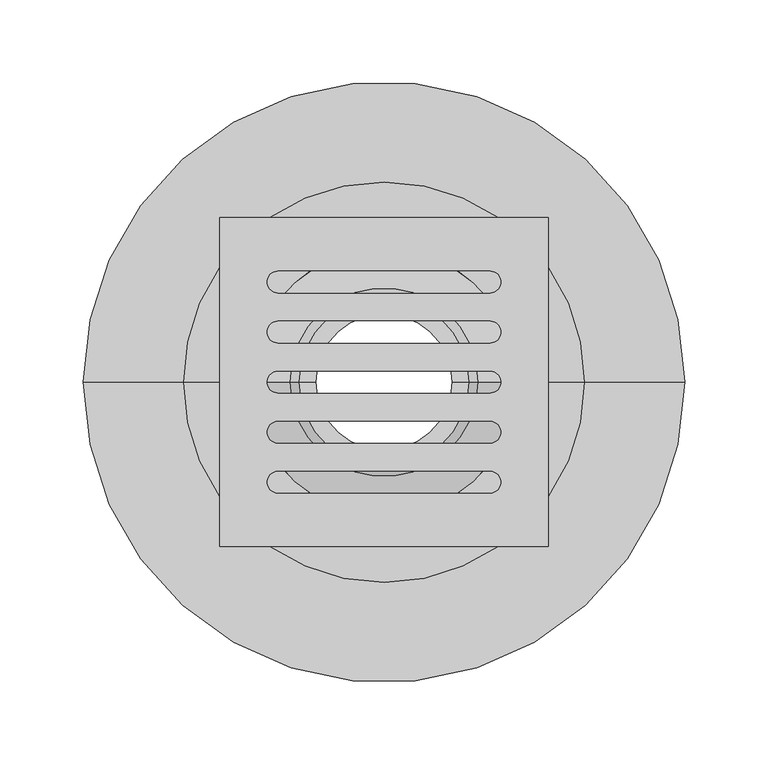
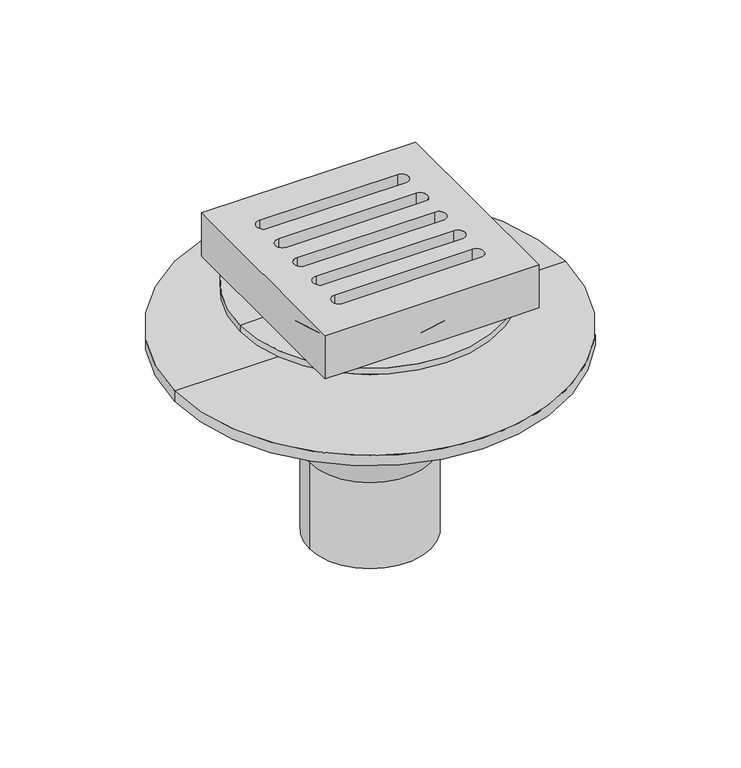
"""IFC4 building model written with IfcOpenShell, lengths in millimetres: sanitary terminal geometry, PF_ST_UN_305914_Siphon Fonte Telescopique Noir 200x200 vertical DN100_ACO : PF_ST_UN_305914_Siphon Fonte Telescopique Noir 200x200 vertical DN100_ACO."""

from ifc_helpers import new_model, si_unit, frame, origin, place, context, project, spatial, polyline, circle_curve, source, transform, mapped, element, save
from ifc_brep_helpers import plane_surface, cylinder_surface, revolved_surface, advanced_brep


def sanitary_terminal_da008950(model_context):
    return source(origin(), model_context, "Body", "AdvancedBrep", [
        advanced_brep(
        [(180.0, 0.0, -95.0), (-180.0, 0.0, -95.0), (-180.0, 0.0, -85.0), (180.0, 0.0, -85.0), (77.5, 0.0, -95.0), (-77.5, 0.0, -95.0), (77.5, 0.0, -110.0), (-77.5, 0.0, -110.0), (70.0, 0.0, -110.0), (-70.0, 0.0, -110.0), (70.0, 0.0, -167.0), (-70.0, 0.0, -167.0), (56.0, 0.0, -198.0), (-56.0, 0.0, -198.0), (56.0, 0.0, -282.0), (-56.0, 0.0, -282.0), (51.0, 0.0, -282.0), (-51.0, 0.0, -282.0), (51.0, 0.0, -212.3321421), (-51.0, 0.0, -212.3321421), (40.7468904, 0.0, -212.3321421), (-40.7468904, 0.0, -212.3321421), (40.7468904, 0.0, -197.3321421), (-40.7468904, 0.0, -197.3321421), (50.7468904, 0.0, -197.3321421), (-50.7468904, 0.0, -197.3321421), (62.5, 0.0, -167.0), (-62.5, 0.0, -167.0), (62.5, 0.0, -102.5), (-62.5, 0.0, -102.5), (70.0, 0.0, -102.5), (-70.0, 0.0, -102.5), (70.0, 0.0, -92.5), (-70.0, 0.0, -92.5), (62.5, 0.0, -92.5), (-62.5, 0.0, -92.5), (62.5, 0.0, -85.0), (-62.5, 0.0, -85.0)],
        [
            (0, 1, circle_curve(frame((0.0, 0.0, -95.0), z_axis=(0.0, 0.0, 1.0), x_axis=(-1.0, 0.0, 0.0)), 180.0)),
            (1, 2),
            (2, 3, circle_curve(frame((0.0, 0.0, -85.0), z_axis=(0.0, 0.0, -1.0), x_axis=(-1.0, 0.0, 0.0)), 180.0)),
            (3, 0),
            (1, 0, circle_curve(frame((0.0, 0.0, -95.0), z_axis=(0.0, 0.0, 1.0), x_axis=(-1.0, 0.0, 0.0)), 180.0)),
            (3, 2, circle_curve(frame((0.0, 0.0, -85.0), z_axis=(0.0, 0.0, -1.0), x_axis=(-1.0, 0.0, 0.0)), 180.0)),
            (4, 5, circle_curve(frame((0.0, 0.0, -95.0), z_axis=(0.0, 0.0, 1.0), x_axis=(-1.0, 0.0, 0.0)), 77.5)),
            (5, 1),
            (0, 4),
            (5, 4, circle_curve(frame((0.0, 0.0, -95.0), z_axis=(0.0, 0.0, 1.0), x_axis=(-1.0, 0.0, 0.0)), 77.5)),
            (6, 7, circle_curve(frame((0.0, 0.0, -110.0), z_axis=(0.0, 0.0, 1.0), x_axis=(-1.0, 0.0, 0.0)), 77.5)),
            (7, 5),
            (4, 6),
            (7, 6, circle_curve(frame((0.0, 0.0, -110.0), z_axis=(0.0, 0.0, 1.0), x_axis=(-1.0, 0.0, 0.0)), 77.5)),
            (8, 9, circle_curve(frame((0.0, 0.0, -110.0), z_axis=(0.0, 0.0, 1.0), x_axis=(-1.0, 0.0, 0.0)), 70.0)),
            (9, 7),
            (6, 8),
            (9, 8, circle_curve(frame((0.0, 0.0, -110.0), z_axis=(0.0, 0.0, 1.0), x_axis=(-1.0, 0.0, 0.0)), 70.0)),
            (10, 11, circle_curve(frame((0.0, 0.0, -167.0), z_axis=(0.0, 0.0, 1.0), x_axis=(-1.0, 0.0, 0.0)), 70.0)),
            (11, 9),
            (8, 10),
            (11, 10, circle_curve(frame((0.0, 0.0, -167.0), z_axis=(0.0, 0.0, 1.0), x_axis=(-1.0, 0.0, 0.0)), 70.0)),
            (12, 13, circle_curve(frame((0.0, 0.0, -198.0), z_axis=(0.0, 0.0, 1.0), x_axis=(-1.0, 0.0, 0.0)), 56.0)),
            (13, 11),
            (10, 12),
            (13, 12, circle_curve(frame((0.0, 0.0, -198.0), z_axis=(0.0, 0.0, 1.0), x_axis=(-1.0, 0.0, 0.0)), 56.0)),
            (14, 15, circle_curve(frame((0.0, 0.0, -282.0), z_axis=(0.0, 0.0, 1.0), x_axis=(-1.0, 0.0, 0.0)), 56.0)),
            (15, 13),
            (12, 14),
            (15, 14, circle_curve(frame((0.0, 0.0, -282.0), z_axis=(0.0, 0.0, 1.0), x_axis=(-1.0, 0.0, 0.0)), 56.0)),
            (16, 17, circle_curve(frame((0.0, 0.0, -282.0), z_axis=(0.0, 0.0, 1.0), x_axis=(-1.0, 0.0, 0.0)), 51.0)),
            (17, 15),
            (14, 16),
            (17, 16, circle_curve(frame((0.0, 0.0, -282.0), z_axis=(0.0, 0.0, 1.0), x_axis=(-1.0, 0.0, 0.0)), 51.0)),
            (18, 19, circle_curve(frame((0.0, 0.0, -212.3321421), z_axis=(0.0, 0.0, 1.0), x_axis=(-1.0, 0.0, 0.0)), 51.0)),
            (19, 17),
            (16, 18),
            (19, 18, circle_curve(frame((0.0, 0.0, -212.3321421), z_axis=(0.0, 0.0, 1.0), x_axis=(-1.0, 0.0, 0.0)), 51.0)),
            (20, 21, circle_curve(frame((0.0, 0.0, -212.3321421), z_axis=(0.0, 0.0, 1.0), x_axis=(-1.0, 0.0, 0.0)), 40.7468904)),
            (21, 19),
            (18, 20),
            (21, 20, circle_curve(frame((0.0, 0.0, -212.3321421), z_axis=(0.0, 0.0, 1.0), x_axis=(-1.0, 0.0, 0.0)), 40.7468904)),
            (22, 23, circle_curve(frame((0.0, 0.0, -197.3321421), z_axis=(0.0, 0.0, 1.0), x_axis=(-1.0, 0.0, 0.0)), 40.7468904)),
            (23, 21),
            (20, 22),
            (23, 22, circle_curve(frame((0.0, 0.0, -197.3321421), z_axis=(0.0, 0.0, 1.0), x_axis=(-1.0, 0.0, 0.0)), 40.7468904)),
            (24, 25, circle_curve(frame((0.0, 0.0, -197.3321421), z_axis=(0.0, 0.0, 1.0), x_axis=(-1.0, 0.0, 0.0)), 50.7468904)),
            (25, 23),
            (22, 24),
            (25, 24, circle_curve(frame((0.0, 0.0, -197.3321421), z_axis=(0.0, 0.0, 1.0), x_axis=(-1.0, 0.0, 0.0)), 50.7468904)),
            (26, 27, circle_curve(frame((0.0, 0.0, -167.0), z_axis=(0.0, 0.0, 1.0), x_axis=(-1.0, 0.0, 0.0)), 62.5)),
            (27, 25),
            (24, 26),
            (27, 26, circle_curve(frame((0.0, 0.0, -167.0), z_axis=(0.0, 0.0, 1.0), x_axis=(-1.0, 0.0, 0.0)), 62.5)),
            (28, 29, circle_curve(frame((0.0, 0.0, -102.5), z_axis=(0.0, 0.0, 1.0), x_axis=(-1.0, 0.0, 0.0)), 62.5)),
            (29, 27),
            (26, 28),
            (29, 28, circle_curve(frame((0.0, 0.0, -102.5), z_axis=(0.0, 0.0, 1.0), x_axis=(-1.0, 0.0, 0.0)), 62.5)),
            (30, 31, circle_curve(frame((0.0, 0.0, -102.5), z_axis=(0.0, 0.0, 1.0), x_axis=(-1.0, 0.0, 0.0)), 70.0)),
            (31, 29),
            (28, 30),
            (31, 30, circle_curve(frame((0.0, 0.0, -102.5), z_axis=(0.0, 0.0, 1.0), x_axis=(-1.0, 0.0, 0.0)), 70.0)),
            (32, 33, circle_curve(frame((0.0, 0.0, -92.5), z_axis=(0.0, 0.0, 1.0), x_axis=(-1.0, 0.0, 0.0)), 70.0)),
            (33, 31),
            (30, 32),
            (33, 32, circle_curve(frame((0.0, 0.0, -92.5), z_axis=(0.0, 0.0, 1.0), x_axis=(-1.0, 0.0, 0.0)), 70.0)),
            (34, 35, circle_curve(frame((0.0, 0.0, -92.5), z_axis=(0.0, 0.0, 1.0), x_axis=(-1.0, 0.0, 0.0)), 62.5)),
            (35, 33),
            (32, 34),
            (35, 34, circle_curve(frame((0.0, 0.0, -92.5), z_axis=(0.0, 0.0, 1.0), x_axis=(-1.0, 0.0, 0.0)), 62.5)),
            (36, 37, circle_curve(frame((0.0, 0.0, -85.0), z_axis=(0.0, 0.0, 1.0), x_axis=(-1.0, 0.0, 0.0)), 62.5)),
            (37, 35),
            (34, 36),
            (37, 36, circle_curve(frame((0.0, 0.0, -85.0), z_axis=(0.0, 0.0, 1.0), x_axis=(-1.0, 0.0, 0.0)), 62.5)),
            (2, 37),
            (36, 3),
        ],
        [
            cylinder_surface(frame((0.0, 0.0, -85.0), z_axis=(0.0, 0.0, -1.0), x_axis=(-1.0, 0.0, 0.0)), 180.0),
            plane_surface(frame((0.0, 0.0, -95.0), z_axis=(0.0, 0.0, -1.0), x_axis=(-1.0, 0.0, 0.0))),
            cylinder_surface(frame((0.0, 0.0, -85.0), z_axis=(0.0, 0.0, -1.0), x_axis=(-1.0, 0.0, 0.0)), 77.5),
            plane_surface(frame((0.0, 0.0, -110.0), z_axis=(0.0, 0.0, -1.0), x_axis=(-1.0, 0.0, 0.0))),
            cylinder_surface(frame((0.0, 0.0, -85.0), z_axis=(0.0, 0.0, -1.0), x_axis=(-1.0, 0.0, 0.0)), 70.0),
            revolved_surface(polyline([(-70.0, 0.0, -167.0), (-56.0, 0.0, -198.0)]), (0.0, 0.0, -85.0), (0.0, 0.0, -1.0)),
            cylinder_surface(frame((0.0, 0.0, -85.0), z_axis=(0.0, 0.0, -1.0), x_axis=(-1.0, 0.0, 0.0)), 56.0),
            plane_surface(frame((0.0, 0.0, -282.0), z_axis=(0.0, 0.0, -1.0), x_axis=(-1.0, 0.0, 0.0))),
            revolved_surface(polyline([(-51.0, 0.0, -282.0), (-51.0, 0.0, -212.3321421)]), (0.0, 0.0, -85.0), (0.0, 0.0, -1.0)),
            plane_surface(frame((0.0, 0.0, -212.3321421), z_axis=(0.0, 0.0, -1.0), x_axis=(-1.0, 0.0, 0.0))),
            revolved_surface(polyline([(-40.7468904, 0.0, -212.3321421), (-40.7468904, 0.0, -197.3321421)]), (0.0, 0.0, -85.0), (0.0, 0.0, -1.0)),
            plane_surface(frame((0.0, 0.0, -197.3321421), z_axis=(0.0, 0.0, 1.0), x_axis=(-1.0, 0.0, 0.0))),
            revolved_surface(polyline([(-50.7468904, 0.0, -197.3321421), (-62.5, 0.0, -167.0)]), (0.0, 0.0, -85.0), (0.0, 0.0, -1.0)),
            revolved_surface(polyline([(-62.5, 0.0, -167.0), (-62.5, 0.0, -102.5)]), (0.0, 0.0, -85.0), (0.0, 0.0, -1.0)),
            plane_surface(frame((0.0, 0.0, -102.5), z_axis=(0.0, 0.0, 1.0), x_axis=(-1.0, 0.0, 0.0))),
            revolved_surface(polyline([(-70.0, 0.0, -102.5), (-70.0, 0.0, -92.5)]), (0.0, 0.0, -85.0), (0.0, 0.0, -1.0)),
            plane_surface(frame((0.0, 0.0, -92.5), z_axis=(0.0, 0.0, -1.0), x_axis=(-1.0, 0.0, 0.0))),
            revolved_surface(polyline([(-62.5, 0.0, -92.5), (-62.5, 0.0, -85.0)]), (0.0, 0.0, -85.0), (0.0, 0.0, -1.0)),
            plane_surface(frame((0.0, 0.0, -85.0), z_axis=(0.0, 0.0, 1.0), x_axis=(-1.0, 0.0, 0.0))),
        ],
        [
            (0, [[1, 2, 3, 4]]),
            (0, [[5, -4, 6, -2]]),
            (1, [[7, 8, -1, 9]]),
            (1, [[10, -9, -5, -8]]),
            (2, [[11, 12, -7, 13]]),
            (2, [[14, -13, -10, -12]]),
            (3, [[15, 16, -11, 17]]),
            (3, [[18, -17, -14, -16]]),
            (4, [[19, 20, -15, 21]]),
            (4, [[22, -21, -18, -20]]),
            (5, [[23, 24, -19, 25]]),
            (5, [[26, -25, -22, -24]]),
            (6, [[27, 28, -23, 29]]),
            (6, [[30, -29, -26, -28]]),
            (7, [[31, 32, -27, 33]]),
            (7, [[34, -33, -30, -32]]),
            (8, [[35, 36, -31, 37]]),
            (8, [[38, -37, -34, -36]]),
            (9, [[39, 40, -35, 41]]),
            (9, [[42, -41, -38, -40]]),
            (10, [[43, 44, -39, 45]]),
            (10, [[46, -45, -42, -44]]),
            (11, [[47, 48, -43, 49]]),
            (11, [[50, -49, -46, -48]]),
            (12, [[51, 52, -47, 53]]),
            (12, [[54, -53, -50, -52]]),
            (13, [[55, 56, -51, 57]]),
            (13, [[58, -57, -54, -56]]),
            (14, [[59, 60, -55, 61]]),
            (14, [[62, -61, -58, -60]]),
            (15, [[63, 64, -59, 65]]),
            (15, [[66, -65, -62, -64]]),
            (16, [[67, 68, -63, 69]]),
            (16, [[70, -69, -66, -68]]),
            (17, [[71, 72, -67, 73]]),
            (17, [[74, -73, -70, -72]]),
            (18, [[-3, 75, -71, 76]]),
            (18, [[-6, -76, -74, -75]]),
        ],
    ),
        advanced_brep(
        [(98.5, 98.5, -42.0), (98.5, 68.5401342, -42.0), (68.5401342, 98.5, -42.0), (98.5, -68.5401342, -42.0), (98.5, -98.5, -42.0), (68.5401342, -98.5, -42.0), (-68.5401342, -98.5, -42.0), (-98.5, -98.5, -42.0), (-98.5, -68.5401342, -42.0), (-98.5, 68.5401342, -42.0), (-98.5, 98.5, -42.0), (-68.5401342, 98.5, -42.0), (44.4719012, 66.5, -42.0), (-44.4719012, 66.5, -42.0), (-59.4789879, 53.5, -42.0), (59.4789879, 53.5, -42.0), (80.0, 0.0, -42.0), (59.4789879, -53.5, -42.0), (-59.4789879, -53.5, -42.0), (-80.0, 0.0, -42.0), (63.5, 6.5, -42.0), (-63.5, 6.5, -42.0), (-63.5, -6.5, -42.0), (63.5, -6.5, -42.0), (63.5, 23.5, -42.0), (63.5, 36.5, -42.0), (-63.5, 36.5, -42.0), (-63.5, 23.5, -42.0), (63.5, -23.5, -42.0), (-63.5, -23.5, -42.0), (-63.5, -36.5, -42.0), (63.5, -36.5, -42.0), (-44.4719012, -66.5, -42.0), (44.4719012, -66.5, -42.0), (98.5, 98.5, 0.0), (-98.5, 98.5, 0.0), (-98.5, -98.5, 0.0), (98.5, -98.5, 0.0), (63.5, 6.5, 0.0), (63.5, -6.5, 0.0), (-63.5, -6.5, 0.0), (-63.5, 6.5, 0.0), (63.5, 23.5, 0.0), (-63.5, 23.5, 0.0), (-63.5, 36.5, 0.0), (63.5, 36.5, 0.0), (63.5, 53.5, 0.0), (-63.5, 53.5, 0.0), (-63.5, 66.5, 0.0), (63.5, 66.5, 0.0), (63.5, -23.5, 0.0), (63.5, -36.5, 0.0), (-63.5, -36.5, 0.0), (-63.5, -23.5, 0.0), (63.5, -53.5, 0.0), (63.5, -66.5, 0.0), (-63.5, -66.5, 0.0), (-63.5, -53.5, 0.0), (-98.5, 0.0, -42.0), (98.5, 0.0, -42.0), (63.5, 53.5, -42.0), (-63.5, 53.5, -42.0), (-63.5, 66.5, -42.0), (63.5, 66.5, -42.0), (63.5, -53.5, -42.0), (63.5, -66.5, -42.0), (-63.5, -66.5, -42.0), (-63.5, -53.5, -42.0), (80.0, 0.0, -48.0), (-80.0, 0.0, -48.0), (-120.0, 0.0, -48.0), (120.0, 0.0, -48.0), (62.5, 0.0, -64.0), (-62.5, 0.0, -64.0), (62.5, 0.0, -81.5), (-62.5, 0.0, -81.5), (68.0, 0.0, -81.5), (-68.0, 0.0, -81.5), (68.0, 0.0, -87.5), (-68.0, 0.0, -87.5), (85.0, 0.0, -87.5), (-85.0, 0.0, -87.5), (85.0, 0.0, -93.5), (-85.0, 0.0, -93.5), (62.5, 0.0, -93.5), (-62.5, 0.0, -93.5), (62.5, 0.0, -116.0), (-62.5, 0.0, -116.0), (56.5, 0.0, -116.0), (-56.5, 0.0, -116.0), (56.5, 0.0, -64.0), (-56.5, 0.0, -64.0), (120.0, 0.0, -42.0), (-120.0, 0.0, -42.0)],
        [
            (0, 1),
            (1, 2, circle_curve(frame((0.0, 0.0, -42.0), z_axis=(0.0, 0.0, 1.0), x_axis=(-1.0, 0.0, 0.0)), 120.0)),
            (2, 0),
            (3, 4),
            (4, 5),
            (5, 3, circle_curve(frame((0.0, 0.0, -42.0), z_axis=(0.0, 0.0, 1.0), x_axis=(-1.0, 0.0, 0.0)), 120.0)),
            (6, 7),
            (7, 8),
            (8, 6, circle_curve(frame((0.0, 0.0, -42.0), z_axis=(0.0, 0.0, 1.0), x_axis=(-1.0, 0.0, 0.0)), 120.0)),
            (9, 10),
            (10, 11),
            (11, 9, circle_curve(frame((0.0, 0.0, -42.0), z_axis=(0.0, 0.0, 1.0), x_axis=(-1.0, 0.0, 0.0)), 120.0)),
            (12, 13),
            (13, 12, circle_curve(frame((0.0, 0.0, -42.0), z_axis=(0.0, 0.0, -1.0), x_axis=(-1.0, 0.0, 0.0)), 80.0)),
            (14, 15),
            (15, 16, circle_curve(frame((0.0, 0.0, -42.0), z_axis=(0.0, 0.0, -1.0), x_axis=(-1.0, 0.0, 0.0)), 80.0)),
            (16, 17, circle_curve(frame((0.0, 0.0, -42.0), z_axis=(0.0, 0.0, -1.0), x_axis=(-1.0, 0.0, 0.0)), 80.0)),
            (17, 18),
            (18, 19, circle_curve(frame((0.0, 0.0, -42.0), z_axis=(0.0, 0.0, -1.0), x_axis=(-1.0, 0.0, 0.0)), 80.0)),
            (19, 14, circle_curve(frame((0.0, 0.0, -42.0), z_axis=(0.0, 0.0, -1.0), x_axis=(-1.0, 0.0, 0.0)), 80.0)),
            (20, 21),
            (21, 22, circle_curve(frame((-63.5, 0.0, -42.0), z_axis=(0.0, 0.0, 1.0), x_axis=(1.0, 0.0, 0.0)), 6.5)),
            (22, 23),
            (23, 20, circle_curve(frame((63.5, 0.0, -42.0), z_axis=(0.0, 0.0, 1.0), x_axis=(1.0, 0.0, 0.0)), 6.5)),
            (24, 25, circle_curve(frame((63.5, 30.0, -42.0), z_axis=(0.0, 0.0, 1.0), x_axis=(1.0, 0.0, 0.0)), 6.5)),
            (25, 26),
            (26, 27, circle_curve(frame((-63.5, 30.0, -42.0), z_axis=(0.0, 0.0, 1.0), x_axis=(1.0, 0.0, 0.0)), 6.5)),
            (27, 24),
            (28, 29),
            (29, 30, circle_curve(frame((-63.5, -30.0, -42.0), z_axis=(0.0, 0.0, 1.0), x_axis=(1.0, 0.0, 0.0)), 6.5)),
            (30, 31),
            (31, 28, circle_curve(frame((63.5, -30.0, -42.0), z_axis=(0.0, 0.0, 1.0), x_axis=(1.0, 0.0, 0.0)), 6.5)),
            (32, 33),
            (33, 32, circle_curve(frame((0.0, 0.0, -42.0), z_axis=(0.0, 0.0, -1.0), x_axis=(-1.0, 0.0, 0.0)), 80.0)),
            (34, 35),
            (35, 36),
            (36, 37),
            (37, 34),
            (38, 39, circle_curve(frame((63.5, 0.0, 0.0), z_axis=(0.0, 0.0, -1.0), x_axis=(1.0, 0.0, 0.0)), 6.5)),
            (39, 40),
            (40, 41, circle_curve(frame((-63.5, 0.0, 0.0), z_axis=(0.0, 0.0, -1.0), x_axis=(1.0, 0.0, 0.0)), 6.5)),
            (41, 38),
            (42, 43),
            (43, 44, circle_curve(frame((-63.5, 30.0, 0.0), z_axis=(0.0, 0.0, -1.0), x_axis=(1.0, 0.0, 0.0)), 6.5)),
            (44, 45),
            (45, 42, circle_curve(frame((63.5, 30.0, 0.0), z_axis=(0.0, 0.0, -1.0), x_axis=(1.0, 0.0, 0.0)), 6.5)),
            (46, 47),
            (47, 48, circle_curve(frame((-63.5, 60.0, 0.0), z_axis=(0.0, 0.0, -1.0), x_axis=(1.0, 0.0, 0.0)), 6.5)),
            (48, 49),
            (49, 46, circle_curve(frame((63.5, 60.0, 0.0), z_axis=(0.0, 0.0, -1.0), x_axis=(1.0, 0.0, 0.0)), 6.5)),
            (50, 51, circle_curve(frame((63.5, -30.0, 0.0), z_axis=(0.0, 0.0, -1.0), x_axis=(1.0, 0.0, 0.0)), 6.5)),
            (51, 52),
            (52, 53, circle_curve(frame((-63.5, -30.0, 0.0), z_axis=(0.0, 0.0, -1.0), x_axis=(1.0, 0.0, 0.0)), 6.5)),
            (53, 50),
            (54, 55, circle_curve(frame((63.5, -60.0, 0.0), z_axis=(0.0, 0.0, -1.0), x_axis=(1.0, 0.0, 0.0)), 6.5)),
            (55, 56),
            (56, 57, circle_curve(frame((-63.5, -60.0, 0.0), z_axis=(0.0, 0.0, -1.0), x_axis=(1.0, 0.0, 0.0)), 6.5)),
            (57, 54),
            (34, 0),
            (2, 11),
            (10, 35),
            (9, 58),
            (58, 8),
            (7, 36),
            (6, 5),
            (4, 37),
            (3, 59),
            (59, 1),
            (23, 39),
            (38, 20),
            (22, 40),
            (21, 41),
            (27, 43),
            (42, 24),
            (26, 44),
            (25, 45),
            (46, 60),
            (60, 15),
            (14, 61),
            (61, 47),
            (61, 62, circle_curve(frame((-63.5, 60.0, -42.0), z_axis=(0.0, 0.0, -1.0), x_axis=(1.0, 0.0, 0.0)), 6.5)),
            (62, 48),
            (62, 13),
            (12, 63),
            (63, 49),
            (63, 60, circle_curve(frame((63.5, 60.0, -42.0), z_axis=(0.0, 0.0, -1.0), x_axis=(1.0, 0.0, 0.0)), 6.5)),
            (31, 51),
            (50, 28),
            (30, 52),
            (29, 53),
            (54, 64),
            (64, 65, circle_curve(frame((63.5, -60.0, -42.0), z_axis=(0.0, 0.0, -1.0), x_axis=(1.0, 0.0, 0.0)), 6.5)),
            (65, 55),
            (65, 33),
            (32, 66),
            (66, 56),
            (66, 67, circle_curve(frame((-63.5, -60.0, -42.0), z_axis=(0.0, 0.0, -1.0), x_axis=(1.0, 0.0, 0.0)), 6.5)),
            (67, 57),
            (67, 18),
            (17, 64),
            (68, 69, circle_curve(frame((0.0, 0.0, -48.0), z_axis=(0.0, 0.0, 1.0), x_axis=(-1.0, 0.0, 0.0)), 80.0)),
            (69, 70),
            (70, 71, circle_curve(frame((0.0, 0.0, -48.0), z_axis=(0.0, 0.0, -1.0), x_axis=(-1.0, 0.0, 0.0)), 120.0)),
            (71, 68),
            (69, 68, circle_curve(frame((0.0, 0.0, -48.0), z_axis=(0.0, 0.0, 1.0), x_axis=(-1.0, 0.0, 0.0)), 80.0)),
            (71, 70, circle_curve(frame((0.0, 0.0, -48.0), z_axis=(0.0, 0.0, -1.0), x_axis=(-1.0, 0.0, 0.0)), 120.0)),
            (68, 72),
            (72, 73, circle_curve(frame((0.0, 0.0, -64.0), z_axis=(0.0, 0.0, 1.0), x_axis=(-1.0, 0.0, 0.0)), 62.5)),
            (73, 69),
            (73, 72, circle_curve(frame((0.0, 0.0, -64.0), z_axis=(0.0, 0.0, 1.0), x_axis=(-1.0, 0.0, 0.0)), 62.5)),
            (72, 74),
            (74, 75, circle_curve(frame((0.0, 0.0, -81.5), z_axis=(0.0, 0.0, 1.0), x_axis=(-1.0, 0.0, 0.0)), 62.5)),
            (75, 73),
            (75, 74, circle_curve(frame((0.0, 0.0, -81.5), z_axis=(0.0, 0.0, 1.0), x_axis=(-1.0, 0.0, 0.0)), 62.5)),
            (74, 76),
            (76, 77, circle_curve(frame((0.0, 0.0, -81.5), z_axis=(0.0, 0.0, 1.0), x_axis=(-1.0, 0.0, 0.0)), 68.0)),
            (77, 75),
            (77, 76, circle_curve(frame((0.0, 0.0, -81.5), z_axis=(0.0, 0.0, 1.0), x_axis=(-1.0, 0.0, 0.0)), 68.0)),
            (76, 78),
            (78, 79, circle_curve(frame((0.0, 0.0, -87.5), z_axis=(0.0, 0.0, 1.0), x_axis=(-1.0, 0.0, 0.0)), 68.0)),
            (79, 77),
            (79, 78, circle_curve(frame((0.0, 0.0, -87.5), z_axis=(0.0, 0.0, 1.0), x_axis=(-1.0, 0.0, 0.0)), 68.0)),
            (78, 80),
            (80, 81, circle_curve(frame((0.0, 0.0, -87.5), z_axis=(0.0, 0.0, 1.0), x_axis=(-1.0, 0.0, 0.0)), 85.0)),
            (81, 79),
            (81, 80, circle_curve(frame((0.0, 0.0, -87.5), z_axis=(0.0, 0.0, 1.0), x_axis=(-1.0, 0.0, 0.0)), 85.0)),
            (80, 82),
            (82, 83, circle_curve(frame((0.0, 0.0, -93.5), z_axis=(0.0, 0.0, 1.0), x_axis=(-1.0, 0.0, 0.0)), 85.0)),
            (83, 81),
            (83, 82, circle_curve(frame((0.0, 0.0, -93.5), z_axis=(0.0, 0.0, 1.0), x_axis=(-1.0, 0.0, 0.0)), 85.0)),
            (82, 84),
            (84, 85, circle_curve(frame((0.0, 0.0, -93.5), z_axis=(0.0, 0.0, 1.0), x_axis=(-1.0, 0.0, 0.0)), 62.5)),
            (85, 83),
            (85, 84, circle_curve(frame((0.0, 0.0, -93.5), z_axis=(0.0, 0.0, 1.0), x_axis=(-1.0, 0.0, 0.0)), 62.5)),
            (84, 86),
            (86, 87, circle_curve(frame((0.0, 0.0, -116.0), z_axis=(0.0, 0.0, 1.0), x_axis=(-1.0, 0.0, 0.0)), 62.5)),
            (87, 85),
            (87, 86, circle_curve(frame((0.0, 0.0, -116.0), z_axis=(0.0, 0.0, 1.0), x_axis=(-1.0, 0.0, 0.0)), 62.5)),
            (86, 88),
            (88, 89, circle_curve(frame((0.0, 0.0, -116.0), z_axis=(0.0, 0.0, 1.0), x_axis=(-1.0, 0.0, 0.0)), 56.5)),
            (89, 87),
            (89, 88, circle_curve(frame((0.0, 0.0, -116.0), z_axis=(0.0, 0.0, 1.0), x_axis=(-1.0, 0.0, 0.0)), 56.5)),
            (88, 90),
            (90, 91, circle_curve(frame((0.0, 0.0, -64.0), z_axis=(0.0, 0.0, 1.0), x_axis=(-1.0, 0.0, 0.0)), 56.5)),
            (91, 89),
            (91, 90, circle_curve(frame((0.0, 0.0, -64.0), z_axis=(0.0, 0.0, 1.0), x_axis=(-1.0, 0.0, 0.0)), 56.5)),
            (90, 16),
            (15, 12, circle_curve(frame((0.0, 0.0, -42.0), z_axis=(0.0, 0.0, 1.0), x_axis=(-1.0, 0.0, 0.0)), 80.0)),
            (13, 14, circle_curve(frame((0.0, 0.0, -42.0), z_axis=(0.0, 0.0, 1.0), x_axis=(-1.0, 0.0, 0.0)), 80.0)),
            (19, 91),
            (18, 32, circle_curve(frame((0.0, 0.0, -42.0), z_axis=(0.0, 0.0, 1.0), x_axis=(-1.0, 0.0, 0.0)), 80.0)),
            (33, 17, circle_curve(frame((0.0, 0.0, -42.0), z_axis=(0.0, 0.0, 1.0), x_axis=(-1.0, 0.0, 0.0)), 80.0)),
            (92, 1, circle_curve(frame((0.0, 0.0, -42.0), z_axis=(0.0, 0.0, 1.0), x_axis=(-1.0, 0.0, 0.0)), 120.0)),
            (59, 92),
            (9, 93, circle_curve(frame((0.0, 0.0, -42.0), z_axis=(0.0, 0.0, 1.0), x_axis=(-1.0, 0.0, 0.0)), 120.0)),
            (93, 58),
            (2, 11, circle_curve(frame((0.0, 0.0, -42.0), z_axis=(0.0, 0.0, 1.0), x_axis=(-1.0, 0.0, 0.0)), 120.0)),
            (3, 92, circle_curve(frame((0.0, 0.0, -42.0), z_axis=(0.0, 0.0, 1.0), x_axis=(-1.0, 0.0, 0.0)), 120.0)),
            (6, 5, circle_curve(frame((0.0, 0.0, -42.0), z_axis=(0.0, 0.0, 1.0), x_axis=(-1.0, 0.0, 0.0)), 120.0)),
            (93, 8, circle_curve(frame((0.0, 0.0, -42.0), z_axis=(0.0, 0.0, 1.0), x_axis=(-1.0, 0.0, 0.0)), 120.0)),
            (70, 93),
            (92, 71),
        ],
        [
            plane_surface(frame((-98.5, 98.5, -42.0), z_axis=(0.0, 0.0, -1.0), x_axis=(1.0, 0.0, 0.0))),
            plane_surface(frame((-98.5, 98.5, 0.0), z_axis=(0.0, 0.0, 1.0), x_axis=(-1.0, 0.0, 0.0))),
            plane_surface(frame((98.5, 98.5, 0.0), z_axis=(0.0, 1.0, 0.0), x_axis=(0.0, 0.0, -1.0))),
            plane_surface(frame((-98.5, 98.5, 0.0), z_axis=(-1.0, 0.0, 0.0), x_axis=(0.0, 0.0, -1.0))),
            plane_surface(frame((-98.5, -98.5, 0.0), z_axis=(0.0, -1.0, 0.0), x_axis=(0.0, 0.0, -1.0))),
            plane_surface(frame((98.5, -98.5, 0.0), z_axis=(1.0, 0.0, 0.0), x_axis=(0.0, 0.0, -1.0))),
            revolved_surface(polyline([(70.0, 0.0, -42.0), (70.0, 0.0, 0.0)]), (63.5, 0.0, 0.0), (0.0, 0.0, -1.0)),
            plane_surface(frame((63.5, -6.5, 0.0), z_axis=(0.0, 1.0, 0.0), x_axis=(0.0, 0.0, -1.0))),
            revolved_surface(polyline([(-57.0, 0.0, -42.0), (-57.0, 0.0, 0.0)]), (-63.5, 0.0, 0.0), (0.0, 0.0, -1.0)),
            plane_surface(frame((-63.5, 6.5, 0.0), z_axis=(0.0, -1.0, 0.0), x_axis=(0.0, 0.0, -1.0))),
            plane_surface(frame((63.5, 23.5, 0.0), z_axis=(0.0, 1.0, 0.0), x_axis=(0.0, 0.0, -1.0))),
            revolved_surface(polyline([(-57.0, 30.0, -42.0), (-57.0, 30.0, 0.0)]), (-63.5, 30.0, 0.0), (0.0, 0.0, -1.0)),
            plane_surface(frame((-63.5, 36.5, 0.0), z_axis=(0.0, -1.0, 0.0), x_axis=(0.0, 0.0, -1.0))),
            revolved_surface(polyline([(70.0, 30.0, -42.0), (70.0, 30.0, 0.0)]), (63.5, 30.0, 0.0), (0.0, 0.0, -1.0)),
            plane_surface(frame((63.5, 53.5, 0.0), z_axis=(0.0, 1.0, 0.0), x_axis=(0.0, 0.0, -1.0))),
            revolved_surface(polyline([(-57.0, 60.0, -42.0), (-57.0, 60.0, 0.0)]), (-63.5, 60.0, 0.0), (0.0, 0.0, -1.0)),
            plane_surface(frame((-63.5, 66.5, 0.0), z_axis=(0.0, -1.0, 0.0), x_axis=(0.0, 0.0, -1.0))),
            revolved_surface(polyline([(70.0, 60.0, -42.0), (70.0, 60.0, 0.0)]), (63.5, 60.0, 0.0), (0.0, 0.0, -1.0)),
            revolved_surface(polyline([(70.0, -30.0, -42.0), (70.0, -30.0, 0.0)]), (63.5, -30.0, 0.0), (0.0, 0.0, -1.0)),
            plane_surface(frame((63.5, -36.5, 0.0), z_axis=(0.0, 1.0, 0.0), x_axis=(0.0, 0.0, -1.0))),
            revolved_surface(polyline([(-57.0, -30.0, -42.0), (-57.0, -30.0, 0.0)]), (-63.5, -30.0, 0.0), (0.0, 0.0, -1.0)),
            plane_surface(frame((-63.5, -23.5, 0.0), z_axis=(0.0, -1.0, 0.0), x_axis=(0.0, 0.0, -1.0))),
            revolved_surface(polyline([(70.0, -60.0, -42.0), (70.0, -60.0, 0.0)]), (63.5, -60.0, 0.0), (0.0, 0.0, -1.0)),
            plane_surface(frame((63.5, -66.5, 0.0), z_axis=(0.0, 1.0, 0.0), x_axis=(0.0, 0.0, -1.0))),
            revolved_surface(polyline([(-57.0, -60.0, -42.0), (-57.0, -60.0, 0.0)]), (-63.5, -60.0, 0.0), (0.0, 0.0, -1.0)),
            plane_surface(frame((-63.5, -53.5, 0.0), z_axis=(0.0, -1.0, 0.0), x_axis=(0.0, 0.0, -1.0))),
            plane_surface(frame((0.0, 0.0, -48.0), z_axis=(0.0, 0.0, -1.0), x_axis=(-1.0, 0.0, 0.0))),
            revolved_surface(polyline([(-80.0, 0.0, -48.0), (-62.5, 0.0, -64.0)]), (0.0, 0.0, -42.0), (0.0, 0.0, -1.0)),
            cylinder_surface(frame((0.0, 0.0, -42.0), z_axis=(0.0, 0.0, -1.0), x_axis=(-1.0, 0.0, 0.0)), 62.5),
            plane_surface(frame((0.0, 0.0, -81.5), z_axis=(0.0, 0.0, 1.0), x_axis=(-1.0, 0.0, 0.0))),
            cylinder_surface(frame((0.0, 0.0, -42.0), z_axis=(0.0, 0.0, -1.0), x_axis=(-1.0, 0.0, 0.0)), 68.0),
            plane_surface(frame((0.0, 0.0, -87.5), z_axis=(0.0, 0.0, 1.0), x_axis=(-1.0, 0.0, 0.0))),
            cylinder_surface(frame((0.0, 0.0, -42.0), z_axis=(0.0, 0.0, -1.0), x_axis=(-1.0, 0.0, 0.0)), 85.0),
            plane_surface(frame((0.0, 0.0, -93.5), z_axis=(0.0, 0.0, -1.0), x_axis=(-1.0, 0.0, 0.0))),
            plane_surface(frame((0.0, 0.0, -116.0), z_axis=(0.0, 0.0, -1.0), x_axis=(-1.0, 0.0, 0.0))),
            revolved_surface(polyline([(-56.5, 0.0, -116.0), (-56.5, 0.0, -64.0)]), (0.0, 0.0, -42.0), (0.0, 0.0, -1.0)),
            revolved_surface(polyline([(-56.5, 0.0, -64.0), (-80.0, 0.0, -42.0)]), (0.0, 0.0, -42.0), (0.0, 0.0, -1.0)),
            plane_surface(frame((0.0, 0.0, -42.0), z_axis=(0.0, 0.0, 1.0), x_axis=(-1.0, 0.0, 0.0))),
            cylinder_surface(frame((0.0, 0.0, -42.0), z_axis=(0.0, 0.0, -1.0), x_axis=(-1.0, 0.0, 0.0)), 120.0),
        ],
        [
            (0, [[1, 2, 3]]),
            (0, [[4, 5, 6]]),
            (0, [[7, 8, 9]]),
            (0, [[10, 11, 12]]),
            (0, [[13, 14]]),
            (0, [[15, 16, 17, 18, 19, 20], [21, 22, 23, 24], [25, 26, 27, 28], [29, 30, 31, 32]]),
            (0, [[33, 34]]),
            (1, [[35, 36, 37, 38], [39, 40, 41, 42], [43, 44, 45, 46], [47, 48, 49, 50], [51, 52, 53, 54], [55, 56, 57, 58]]),
            (2, [[-35, 59, -3, 60, -11, 61]]),
            (3, [[-36, -61, -10, 62, 63, -8, 64]]),
            (4, [[-37, -64, -7, 65, -5, 66]]),
            (5, [[-38, -66, -4, 67, 68, -1, -59]]),
            (6, [[-24, 69, -39, 70]]),
            (7, [[-23, 71, -40, -69]]),
            (8, [[-22, 72, -41, -71]]),
            (9, [[-21, -70, -42, -72]]),
            (10, [[-28, 73, -43, 74]]),
            (11, [[-27, 75, -44, -73]]),
            (12, [[-26, 76, -45, -75]]),
            (13, [[-25, -74, -46, -76]]),
            (14, [[-47, 77, 78, -15, 79, 80]]),
            (15, [[-48, -80, 81, 82]]),
            (16, [[-49, -82, 83, -13, 84, 85]]),
            (17, [[-50, -85, 86, -77]]),
            (18, [[-32, 87, -51, 88]]),
            (19, [[-31, 89, -52, -87]]),
            (20, [[-30, 90, -53, -89]]),
            (21, [[-29, -88, -54, -90]]),
            (22, [[-55, 91, 92, 93]]),
            (23, [[-56, -93, 94, -33, 95, 96]]),
            (24, [[-57, -96, 97, 98]]),
            (25, [[-58, -98, 99, -18, 100, -91]]),
            (26, [[101, 102, 103, 104]]),
            (26, [[-102, 105, -104, 106]]),
            (27, [[-101, 107, 108, 109]]),
            (27, [[-105, -109, 110, -107]]),
            (28, [[-108, 111, 112, 113]]),
            (28, [[-110, -113, 114, -111]]),
            (29, [[-112, 115, 116, 117]]),
            (29, [[-114, -117, 118, -115]]),
            (30, [[-116, 119, 120, 121]]),
            (30, [[-118, -121, 122, -119]]),
            (31, [[-120, 123, 124, 125]]),
            (31, [[-122, -125, 126, -123]]),
            (32, [[-124, 127, 128, 129]]),
            (32, [[-126, -129, 130, -127]]),
            (33, [[-128, 131, 132, 133]]),
            (33, [[-130, -133, 134, -131]]),
            (28, [[-132, 135, 136, 137]]),
            (28, [[-134, -137, 138, -135]]),
            (34, [[-136, 139, 140, 141]]),
            (34, [[-138, -141, 142, -139]]),
            (35, [[-140, 143, 144, 145]]),
            (35, [[-142, -145, 146, -143]]),
            (36, [[-144, 147, -16, 148, -14, 149, -20, 150]]),
            (36, [[-146, -150, -19, 151, -34, 152, -17, -147]]),
            (37, [[-148, -78, -86, -84]]),
            (37, [[-149, -83, -81, -79]]),
            (37, [[153, -68, 154]]),
            (37, [[155, 156, -62]]),
            (37, [[157, -60]]),
            (37, [[-151, -99, -97, -95]]),
            (37, [[-152, -94, -92, -100]]),
            (37, [[158, -154, -67]]),
            (37, [[159, -65]]),
            (37, [[160, -63, -156]]),
            (38, [[-103, 161, -155, -12, -157, -2, -153, 162]]),
            (38, [[-106, -162, -158, -6, -159, -9, -160, -161]]),
        ],
    ),
    ])


if __name__ == "__main__":
    model = new_model("IFC4")
    model_context = context("Model", 3, world=origin())
    ifc_project = project(units=[si_unit("LENGTHUNIT", "METRE", prefix="MILLI")], contexts=[model_context])
    site = spatial("IfcSite", under=ifc_project)
    building = spatial("IfcBuilding", under=site)
    placement = place(None, origin())
    sanitary_terminal_shape = sanitary_terminal_da008950(model_context)
    element("IfcSanitaryTerminal", 1, ObjectType="PF_ST_UN_305914_Siphon Fonte Telescopique Noir 200x200 vertical DN100_ACO : PF_ST_UN_305914_Siphon Fonte Telescopique Noir 200x200 vertical DN100_ACO", at=placement, inside=building, context=model_context, shape_type="MappedRepresentation", body=[
        mapped(sanitary_terminal_shape, transform((0.0, 0.0, 0.0), x_axis=(1.0, 0.0, 0.0), y_axis=(0.0, 1.0, 0.0), z_axis=(0.0, 0.0, 1.0))),
    ])
    save(model, "model.ifc")
